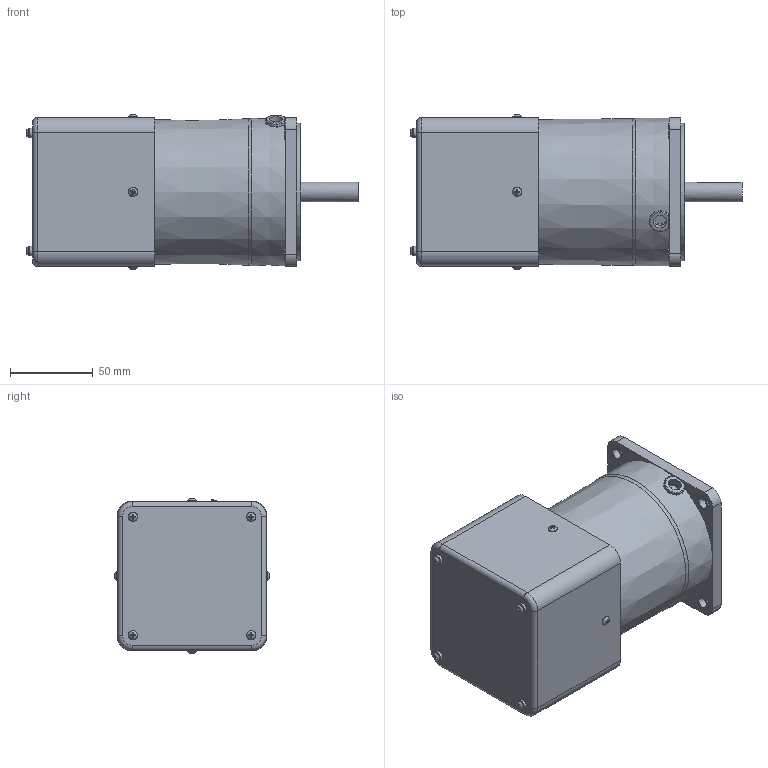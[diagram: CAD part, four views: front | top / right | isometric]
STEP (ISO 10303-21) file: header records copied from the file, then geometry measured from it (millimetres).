
FILE_DESCRIPTION((''),'2;1');
FILE_NAME('D:\STP파일\60W MOTOR\SPEED CONTROL TYPE\S9I60K-S.stp','2013-05-20T18:10:26',('leebh'),(''),'Autodesk Inventor 2011','Autodesk Inventor 2011','');
FILE_SCHEMA(('AUTOMOTIVE_DESIGN { 1 0 10303 214 1 1 1 1 }'));
Length unit declared in the file: millimetre
Products named in the file (1): 부품1
Bounding box: 200.75 x 93.89 x 93.89 mm (x, y, z)
Volume: 874582.7 mm3; surface area: 101339.8 mm2
Topology: 1 solids, 7 shells, 286 faces, 688 edges, 444 vertices
Faces by surface type: plane 176, cylinder 70, torus 26, bspline 8, cone 6
Full cylindrical faces by diameter (mm): 3 x8, 4.5 x4, 5.6 x12, 6.5 x4, 8 x1, 9.5 x4, 10 x1, 12 x1, 40 x1, 83 x1
Entity records: 8690 total; most frequent: CARTESIAN_POINT 2245, DIRECTION 1235, ORIENTED_EDGE 1210, EDGE_CURVE 605, AXIS2_PLACEMENT_3D 454, VERTEX_POINT 430, EDGE_LOOP 401, VECTOR 327
